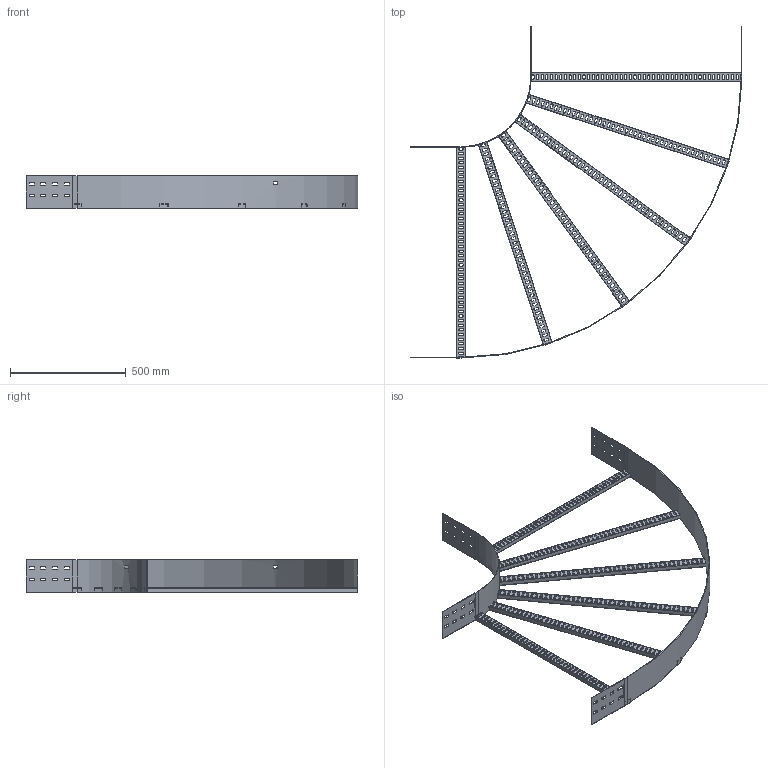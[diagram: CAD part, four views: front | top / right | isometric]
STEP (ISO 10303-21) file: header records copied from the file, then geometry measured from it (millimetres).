
FILE_DESCRIPTION(/* description */ ('','CAx-IF Rec.Pracs.---Representation and Presentation of Product Manufacturing Information (PMI)---4.0---2014-10-13'),/* implementation_level */ '2;1');
FILE_NAME(/* name */ 'Eurostrut_EFB150-900-90-300_Bend 90 for Cable Ladder ECL.step',/* time_stamp */ '2026-09-07T12:16:06+02:00',/* author */ (''),/* organization */ (''),/* preprocessor_version */ 'ST-DEVELOPER v20.1',/* originating_system */ 'Autodesk Revit 2027 27.2.0.39',/* authorisation */ '');
FILE_SCHEMA (('AP242_MANAGED_MODEL_BASED_3D_ENGINEERING_MIM_LF { 1 0 10303 442 2 1 4 }'));
Length unit declared in the file: millimetre
Products named in the file (6): TopLevelAssembly; Sweep; Extrusion; Extrusion_1; Eurostrut_Cable Ladder_Rung_Horizontal Bend_With slots; Eurostrut_Cable Ladder_Accessory End SWEEP
Assembly tree (8 placements, depth 2):
  TopLevelAssembly
    Sweep
    Extrusion
    Extrusion_1
    Eurostrut_Cable Ladder_Rung_Horizontal Bend_With slots
    Eurostrut_Cable Ladder_Accessory End SWEEP  x4
Bounding box: 1431 x 1431 x 142 mm (x, y, z)
Volume: 2030886.7 mm3; surface area: 1875166 mm2
Topology: 16 solids, 16 shells, 1408 faces, 4128 edges, 2752 vertices
Faces by surface type: plane 828, bspline 552, cylinder 28
Entity records: 59892 total; most frequent: CARTESIAN_POINT 24664, ORIENTED_EDGE 7608, DIRECTION 6484, EDGE_CURVE 3804, LINE 2636, VECTOR 2636, VERTEX_POINT 2536, AXIS2_PLACEMENT_3D 1924
